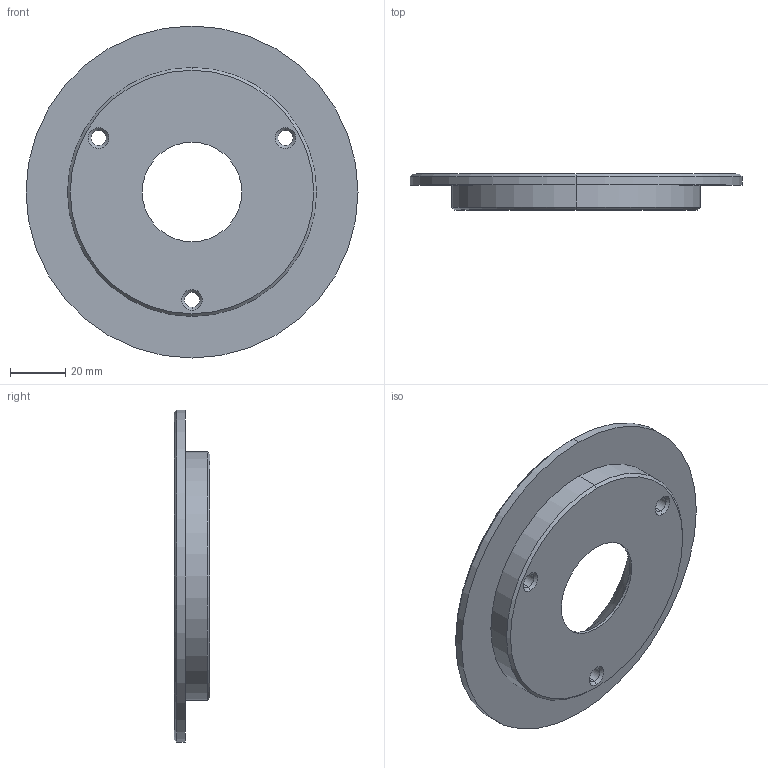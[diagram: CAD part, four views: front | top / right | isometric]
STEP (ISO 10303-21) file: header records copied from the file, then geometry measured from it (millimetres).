
FILE_DESCRIPTION (( 'STEP AP214' ), '1' );
FILE_NAME ('BR1000-120x13.STEP', '2020-02-05T12:21:49', ( 'August' ), ( '' ), 'SwSTEP 2.0', 'SolidWorks 2018', '' );
FILE_SCHEMA (( 'AUTOMOTIVE_DESIGN' ));
Length unit declared in the file: millimetre
Products named in the file (1): BR1000-120x13
Bounding box: 120 x 13 x 120 mm (x, y, z)
Volume: 77200.6 mm3; surface area: 25773.6 mm2
Topology: 1 solids, 1 shells, 42 faces, 90 edges, 54 vertices
Faces by surface type: cone 18, cylinder 18, plane 6
Entity records: 1194 total; most frequent: DIRECTION 230, CARTESIAN_POINT 187, ORIENTED_EDGE 180, AXIS2_PLACEMENT_3D 97, EDGE_CURVE 90, EDGE_LOOP 54, VERTEX_POINT 54, CIRCLE 54
